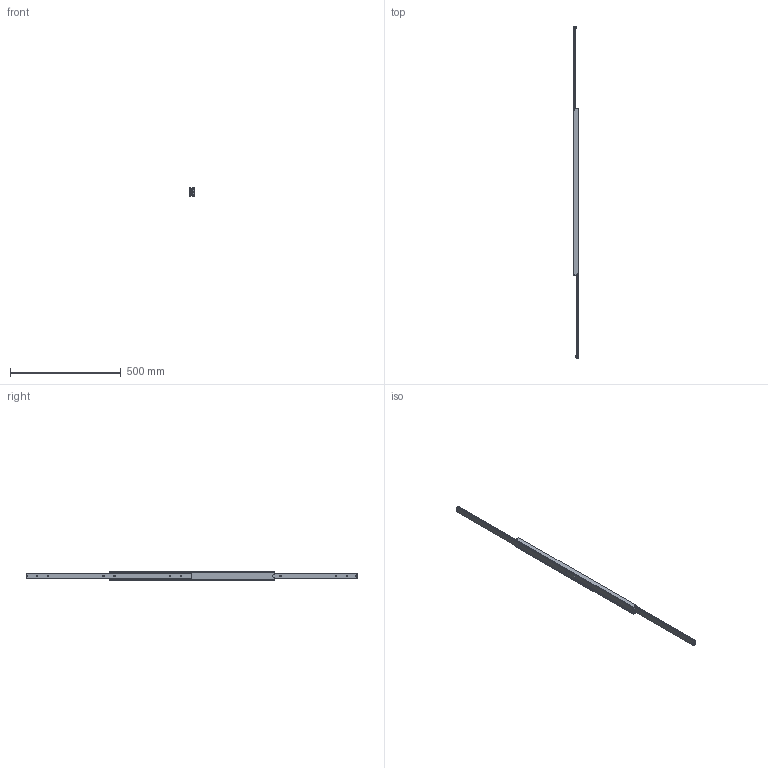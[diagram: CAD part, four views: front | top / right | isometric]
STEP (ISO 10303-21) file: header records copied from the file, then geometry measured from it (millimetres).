
FILE_DESCRIPTION(/* description */ (''),/* implementation_level */ '2;1');
FILE_NAME(/* name */ 'C:\Users\Miluxor\Desktop\Miluxor Schienen\Original Zeichnungen\Zeichnungen Schienen Komplett\MX-DTP40\MX-DTP40.075\MX-DTP40.075 ausgefahren.stp',/* time_stamp */ '2019-01-26T10:42:44+01:00',/* author */ ('Miluxor'),/* organization */ (''),/* preprocessor_version */ 'ST-DEVELOPER v16.13',/* originating_system */ 'AutoCAD Mechanical',/* authorisation */ '');
FILE_SCHEMA (('AUTOMOTIVE_DESIGN { 1 0 10303 214 3 1 1 }'));
Products named in the file (1): Product
Bounding box: 24 x 1500 x 40.5 mm (x, y, z)
Volume: 569409.9 mm3; surface area: 287316.4 mm2
Topology: 95 solids, 95 shells, 618 faces, 1580 edges, 1048 vertices
Faces by surface type: plane 392, cylinder 88, bspline 68, sphere 56, cone 8, torus 6
Full cylindrical faces by diameter (mm): 4 x2, 6 x68, 10 x2
Entity records: 55201 total; most frequent: CARTESIAN_POINT 41077, ORIENTED_EDGE 2744, DIRECTION 2556, EDGE_CURVE 1372, VERTEX_POINT 1038, LINE 930, VECTOR 930, EDGE_LOOP 848
